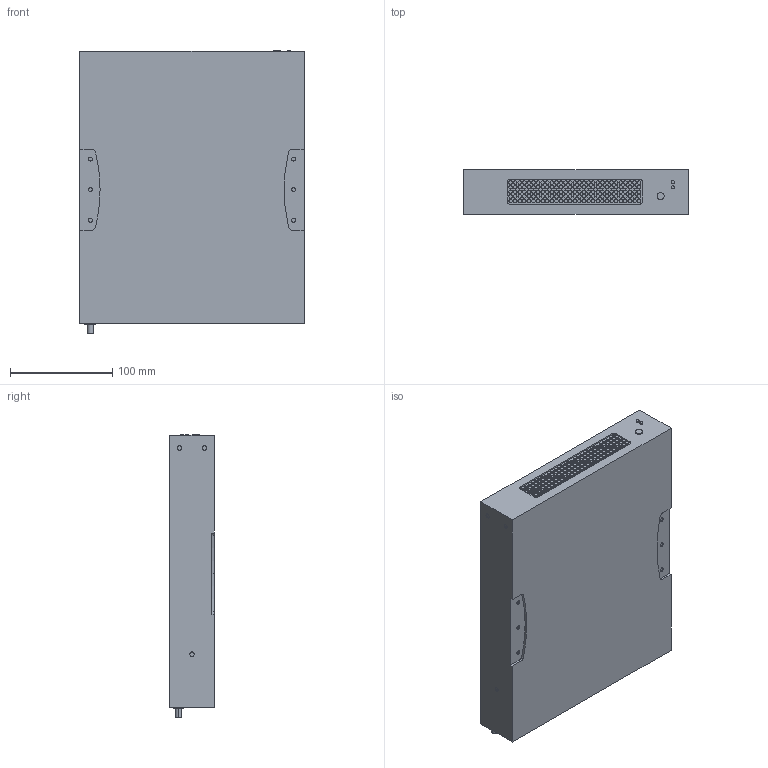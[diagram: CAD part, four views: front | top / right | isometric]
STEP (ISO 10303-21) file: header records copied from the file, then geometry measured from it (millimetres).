
FILE_DESCRIPTION (( 'STEP AP214' ), '1' );
FILE_NAME ('FG-901638-3D-A (FREESTANDING).STEP', '2025-12-18T23:47:46', ( '' ), ( '' ), 'SwSTEP 2.0', 'SolidWorks 2023', '' );
FILE_SCHEMA (( 'AUTOMOTIVE_DESIGN' ));
Length unit declared in the file: millimetre
Products named in the file (1): FG-901638-3D-A (FREESTANDING)
Bounding box: 220.14 x 43.6 x 277.84 mm (x, y, z)
Volume: 2543740 mm3; surface area: 163929.5 mm2
Topology: 1 solids, 1 shells, 985 faces, 2238 edges, 1492 vertices
Faces by surface type: plane 647, cylinder 338
Entity records: 27711 total; most frequent: DIRECTION 4886, CARTESIAN_POINT 4716, ORIENTED_EDGE 4476, EDGE_CURVE 2238, AXIS2_PLACEMENT_3D 1662, VECTOR 1562, LINE 1562, VERTEX_POINT 1492
